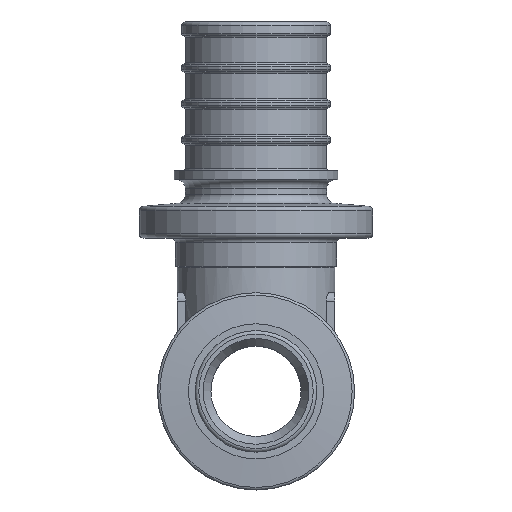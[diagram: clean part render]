
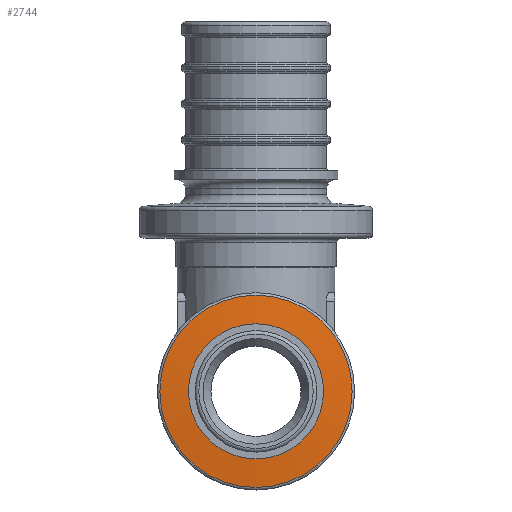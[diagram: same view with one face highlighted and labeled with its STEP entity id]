
A CAD part, front view. The second image highlights one B-rep face of the part: STEP entity #2744.
In plain terms, the highlighted conical face has half-angle 85 degrees and reference radius 8.995 mm.
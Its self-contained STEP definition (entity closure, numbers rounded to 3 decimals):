
#2744=ADVANCED_FACE('',(#5982,#5984),#5986,.T.);
#5982=FACE_OUTER_BOUND('',#5983,.T.);
#5983=EDGE_LOOP('',(#8933));
#5984=FACE_BOUND('',#5985,.T.);
#5985=EDGE_LOOP('',(#8934,#8935));
#5986=CONICAL_SURFACE('',#5987,8.994,1.484);
#5987=AXIS2_PLACEMENT_3D('',#5988,#5989,#5990);
#5988=CARTESIAN_POINT('',(0.,-22.171,0.));
#5989=DIRECTION('',(0.,1.,0.));
#5990=DIRECTION('',(0.,0.,1.));
#8933=ORIENTED_EDGE('',*,*,#9977,.T.);
#8934=ORIENTED_EDGE('',*,*,#9981,.T.);
#8935=ORIENTED_EDGE('',*,*,#9982,.T.);
#9977=EDGE_CURVE('',#11450,#11450,#11451,.F.);
#9981=EDGE_CURVE('',#11458,#11459,#11460,.T.);
#9982=EDGE_CURVE('',#11459,#11458,#11461,.T.);
#11450=VERTEX_POINT('',#15259);
#11451=CIRCLE('',#15260,10.676);
#11458=VERTEX_POINT('',#15279);
#11459=VERTEX_POINT('',#15280);
#11460=CIRCLE('',#15281,7.313);
#11461=CIRCLE('',#15285,7.313);
#15259=CARTESIAN_POINT('',(0.,-22.024,10.676));
#15260=AXIS2_PLACEMENT_3D('',#15261,#15262,#15263);
#15261=CARTESIAN_POINT('',(0.,-22.024,0.));
#15262=DIRECTION('',(0.,1.,0.));
#15263=DIRECTION('',(0.,0.,1.));
#15279=CARTESIAN_POINT('',(0.,-22.318,7.313));
#15280=CARTESIAN_POINT('',(-7.313,-22.318,0.));
#15281=AXIS2_PLACEMENT_3D('',#15282,#15283,#15284);
#15282=CARTESIAN_POINT('',(0.,-22.318,0.));
#15283=DIRECTION('',(0.,1.,0.));
#15284=DIRECTION('',(0.,0.,1.));
#15285=AXIS2_PLACEMENT_3D('',#15286,#15287,#15288);
#15286=CARTESIAN_POINT('',(0.,-22.318,0.));
#15287=DIRECTION('',(0.,1.,0.));
#15288=DIRECTION('',(-1.,0.,0.));
